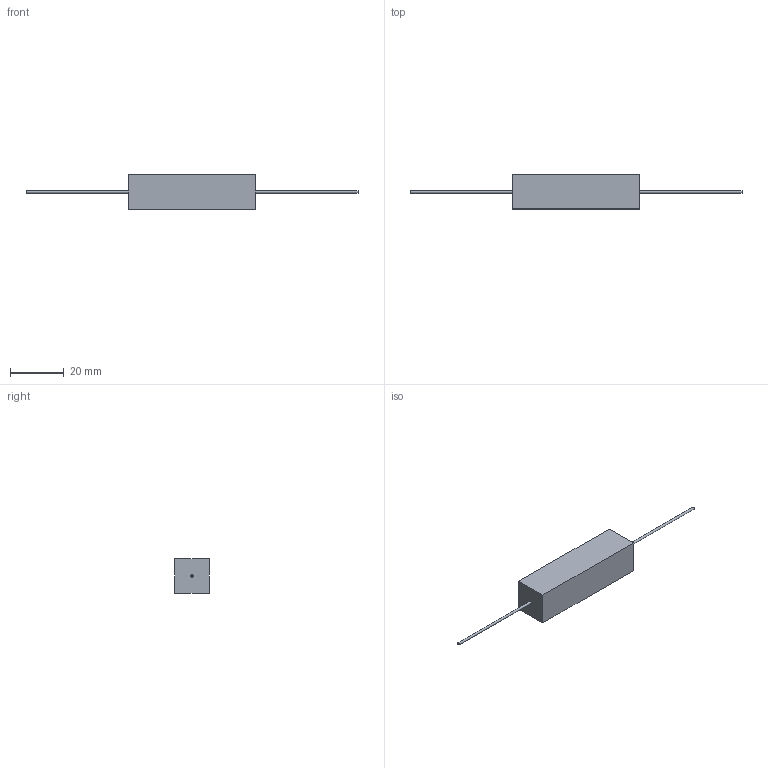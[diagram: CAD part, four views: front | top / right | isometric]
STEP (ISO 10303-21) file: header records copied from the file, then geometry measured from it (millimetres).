
FILE_DESCRIPTION(/* description */ (''),/* implementation_level */ '2;1');
FILE_NAME(/* name */ 'C:\Users\mulla\Documents\SEI Models\Inventor Files\WCB_WCBF_NWCB\WCB15_stp.stp',/* time_stamp */ '2019-07-04T17:02:38-04:00',/* author */ ('mulla'),/* organization */ (''),/* preprocessor_version */ 'ST-DEVELOPER v16.1',/* originating_system */ 'Autodesk Inventor 2016',/* authorisation */ '');
FILE_SCHEMA (('AUTOMOTIVE_DESIGN { 1 0 10303 214 3 1 1 }'));
Length unit declared in the file: millimetre
Products named in the file (1): WCB15
Bounding box: 123.83 x 12.7 x 12.7 mm (x, y, z)
Volume: 7731.8 mm3; surface area: 2962.6 mm2
Topology: 3 solids, 3 shells, 12 faces, 18 edges, 12 vertices
Faces by surface type: plane 10, cylinder 2
Full cylindrical faces by diameter (mm): 0.91 x2
Entity records: 304 total; most frequent: DIRECTION 46, CARTESIAN_POINT 41, ORIENTED_EDGE 32, AXIS2_PLACEMENT_3D 17, EDGE_CURVE 16, STYLED_ITEM 15, EDGE_LOOP 14, FACE_OUTER_BOUND 12
